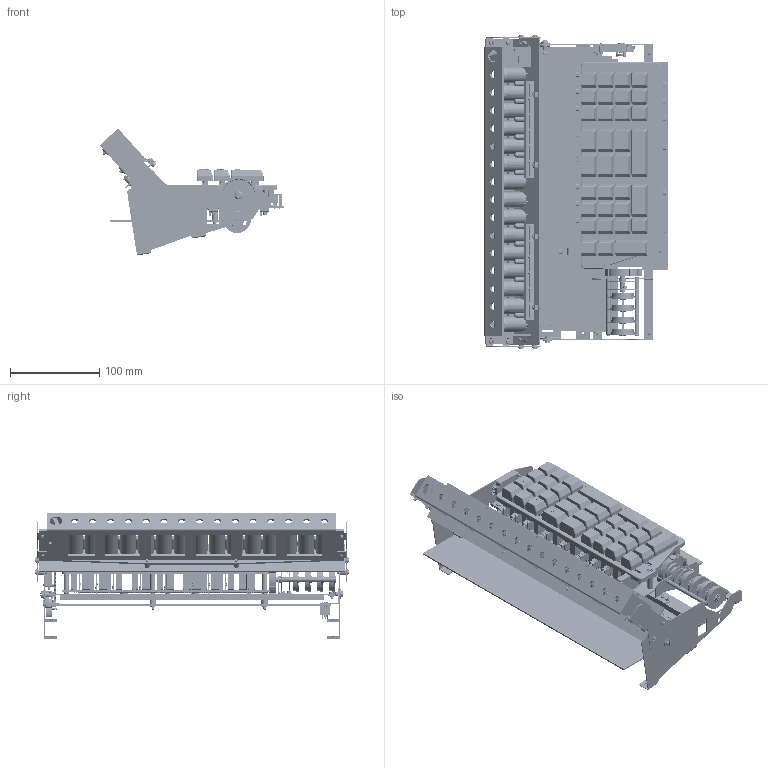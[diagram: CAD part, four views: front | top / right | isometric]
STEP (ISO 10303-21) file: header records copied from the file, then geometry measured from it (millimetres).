
FILE_DESCRIPTION(('STEP AP214'),'1');
FILE_NAME('Assembly157.stp','2017-10-24T08:49:45',(' '),(' '),'Spatial InterOp 3D',' ',' ');
FILE_SCHEMA(('automotive_design'));
Length unit declared in the file: millimetre
Products named in the file (798): Under PCB bracket; PCB bracket; Washer : Plain - M4.0 x 1.0; Screw : Fillister - M4.0 x 8.0; Screw : Fillister - M3.0 x 6.5; Assembly157; Phenolic insulator; Keyboard mounting bar assy; Keyboard bar ; Spacer; Screw : Cheese - M3.0 x 3.7; DP mounting assy; Screw : Cheese - M2.5 x 6.0; DP switch bracket; DP rotary switch assy; DP rotary switch; Part81; Part80; Switch shaft; Spacer 12.5; Spacer 8.1; Switch detent plate; Switch front plate; Spacer 1.6; Wafer 4 assy; Wafer 4; Wiper clip; Wafer 3 assy; Wafer 3; Wafer 2 assy; Wafer 2; Wafer 1 assy; Wafer 1; Detent wheel; 222 DP switch knob; Outer; Body; Centre; Screw : No Head - M3.0 x 5.0; Spring 3mm x 42mm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
Assembly tree (865 placements, depth 7):
  Assembly157
    Under PCB bracket
      PCB bracket
      Washer : Plain - M4.0 x 1.0
      Screw : Fillister - M4.0 x 8.0
      Screw : Fillister - M3.0 x 6.5
      (unnamed)
    Phenolic insulator
    Keyboard mounting bar assy  x2
      Keyboard bar 
      Spacer
      Screw : Cheese - M3.0 x 3.7
    DP rotary switch assy
      DP mounting assy
        Screw : Cheese - M2.5 x 6.0  x2
        DP switch bracket
      DP rotary switch
        Part81
        Part80
        Switch shaft
        Spacer 12.5  x3
        (unnamed)
        Spacer 12.5
        Spacer 12.5
        Spacer 8.1
        (unnamed)
        Switch detent plate
        Switch front plate
        Screw : Cheese - M2.5 x 6.0  x2
        Spacer 1.6
        (unnamed)
        Wafer 4 assy
          Wafer 4
          (unnamed)
          Wiper clip
        Wafer 3 assy
          (unnamed)
          Wafer 3
          Wiper clip
        Wafer 2 assy
          (unnamed)
          Wafer 2
          Wiper clip
        Wafer 1 assy
          (unnamed)
          Wafer 1
          Wiper clip
        Detent wheel
      222 DP switch knob
        Outer
        Body
        Centre
        Screw : No Head - M3.0 x 5.0
      Spring 3mm x 42mm
    Display mounting brackets
      Assembly left
        Screw : Cheese - M3.0 x 12.0  x2
        M3.5 7mm spacer
        Lower display bracket left
        Upper display bracket left
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Bounding box: 205.83 x 353.37 x 142.41 mm (x, y, z)
Volume: 743425.5 mm3; surface area: 895785 mm2
Topology: 1131 solids, 1132 shells, 20337 faces, 52424 edges, 34382 vertices
Faces by surface type: plane 14684, cylinder 4390, torus 398, bspline 351, cone 343, sphere 171
Full cylindrical faces by diameter (mm): 0.1 x22, 0.4 x106, 0.5 x212, 1 x30, 1.2 x11, 1.3 x22, 1.4 x33, 1.5 x117, 1.6 x7, 1.8 x3, 1.95 x1, 1.97 x1, 2 x102, 2.006 x6, 2.1 x5, 2.3 x74, 2.4 x7, 2.5 x84, 2.525 x2, 2.55 x1, 2.7 x62, 2.75 x4, 2.8 x2, 2.944 x2, 2.95 x35, 3 x32, 3.1 x1, 3.2 x89, 3.3 x6, 3.4 x2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
Entity records: 733795 total; most frequent: CARTESIAN_POINT 141173, DIRECTION 89113, ORIENTED_EDGE 88628, EDGE_CURVE 44314, LINE 34649, VECTOR 34649, VERTEX_POINT 30147, AXIS2_PLACEMENT_3D 27232
